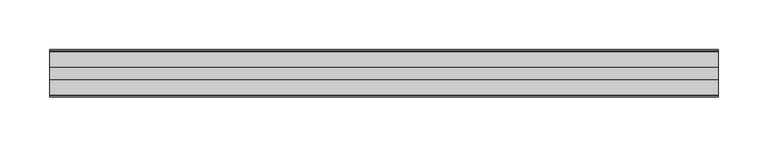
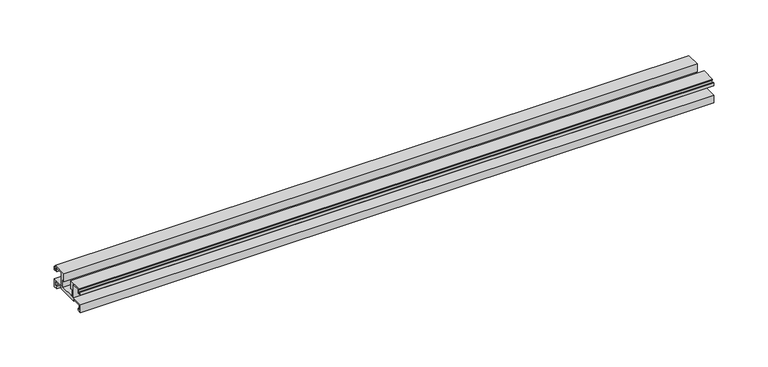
"""IFC4 building model written with IfcOpenShell, lengths in millimetres: proxy geometry, Weiku - Montante - Acoplamento vidro : Weiku - Montante - Acoplamento vidro."""

from ifc_helpers import new_model, si_unit, frame, origin, place, context, project, spatial, polyline, outline, extrude, source, transform, mapped, element, save


def generic_models_0a0a0860(model_context):
    return source(origin(), model_context, "Body", "SweptSolid", [
        extrude(outline(polyline([(-35.405, 5.1494), (-35.405, 6.8004), (-45.741, 6.8004), (-45.741, 2.6094), (-43.8784, 2.6094), (-43.8784, 0.0), (-47.9014508, 0.0), (-47.9014508, 8.79), (-34.946, 8.79), (-34.946, 23.3104), (-43.5397, 23.3104), (-43.5397, 19.204), (-47.9, 19.204), (-47.9, 22.8024), (-46.9264, 22.8024), (-46.9264, 20.3894), (-44.725, 20.3894), (-44.725, 23.9454), (-45.5264504, 23.9454), (-45.5264504, 25.3), (-30.4164, 25.3), (-30.4164, 16.283), (-32.4484, 16.283), (-32.4484, 8.8), (-15.4516, 8.8), (-15.4516, 16.283), (-17.4836, 16.283), (-17.4836, 25.3), (-2.3735496, 25.3), (-2.3735496, 23.9454), (-3.175, 23.9454), (-3.175, 20.3894), (-0.9736, 20.3894), (-0.9736, 22.8024), (0.0, 22.8024), (0.0, 19.204), (-4.3603, 19.204), (-4.3603, 23.3104), (-12.954, 23.3104), (-12.954, 8.79), (0.0014508, 8.79), (0.0014508, 0.0), (-4.0216, 0.0), (-4.0216, 2.6094), (-2.159, 2.6094), (-2.159, 6.8004), (-12.495, 6.8004), (-12.495, 5.1494), (-35.405, 5.1494)])), frame((-335.85, 0.0, 0.0), z_axis=(1.0, 0.0, 0.0), x_axis=(0.0, 1.0, 0.0)), (0.0, 0.0, 1.0), 671.7),
    ])


if __name__ == "__main__":
    model = new_model("IFC4")
    model_context = context("Model", 3, world=origin())
    ifc_project = project(units=[si_unit("LENGTHUNIT", "METRE", prefix="MILLI")], contexts=[model_context])
    site = spatial("IfcSite", under=ifc_project)
    building = spatial("IfcBuilding", under=site)
    placement = place(None, origin())
    generic_models_shape = generic_models_0a0a0860(model_context)
    element("IfcBuildingElementProxy", 1, Name="Weiku - Montante - Acoplamento vidro : Weiku - Montante - Acoplamento vidro", ObjectType="Weiku - Montante - Acoplamento vidro : Weiku - Montante - Acoplamento vidro", at=placement, inside=building, context=model_context, shape_type="MappedRepresentation", body=[
        mapped(generic_models_shape, transform((0.0, 0.0, 0.0), x_axis=(1.0, 0.0, 0.0), y_axis=(0.0, 1.0, 0.0), z_axis=(0.0, 0.0, 1.0))),
    ])
    save(model, "model.ifc")
